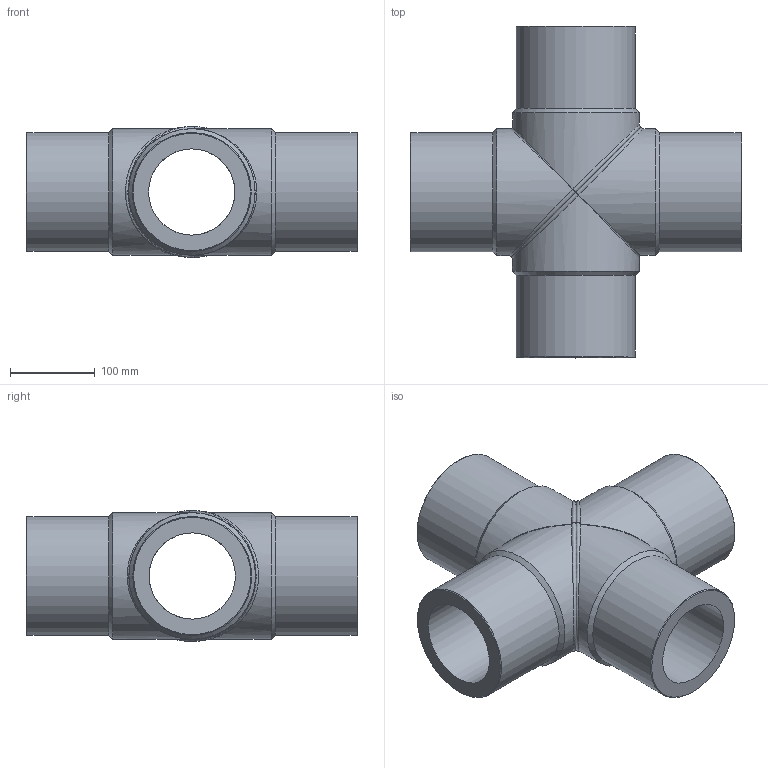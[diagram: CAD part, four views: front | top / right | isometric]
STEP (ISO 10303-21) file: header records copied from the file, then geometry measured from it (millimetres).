
FILE_DESCRIPTION(/* description */ ('Unknown'),/* implementation_level */ '2;1');
FILE_NAME(/* name */ 'CRP140H',/* time_stamp */ '2022-07-08T14:31:53+02:00',/* author */ ('Unknown'),/* organization */ ('Unknown'),/* preprocessor_version */ 'ST-DEVELOPER v18.102',/* originating_system */ 'Solid Edge',/* authorisation */ 'Unknown');
FILE_SCHEMA (('AUTOMOTIVE_DESIGN {1 0 10303 214 3 1 1}'));
Length unit declared in the file: millimetre
Products named in the file (3): CRP140H; CRP140H_mir
Assembly tree (2 placements, depth 2):
  CRP140H
    CRP140H
    CRP140H_mir
Bounding box: 390.5 x 390.5 x 153.99 mm (x, y, z)
Volume: 4971226.9 mm3; surface area: 532588.4 mm2
Topology: 2 solids, 2 shells, 32 faces, 90 edges, 60 vertices
Faces by surface type: cylinder 12, cone 8, plane 6, bspline 6
Full cylindrical faces by diameter (mm): 101.6 x4, 140 x4, 149 x4
Entity records: 3089 total; most frequent: CARTESIAN_POINT 2361, DIRECTION 126, ORIENTED_EDGE 120, AXIS2_PLACEMENT_3D 63, EDGE_CURVE 60, EDGE_LOOP 58, FACE_BOUND 58, VERTEX_POINT 50
